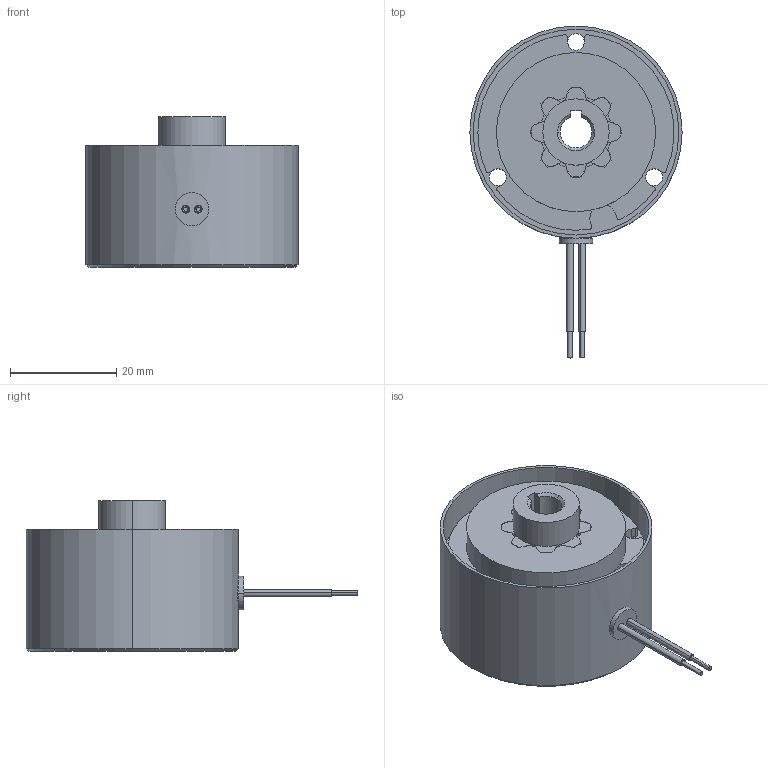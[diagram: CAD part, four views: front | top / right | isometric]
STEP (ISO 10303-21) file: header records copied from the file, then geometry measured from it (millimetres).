
FILE_DESCRIPTION (( 'STEP AP214' ), '1' );
FILE_NAME ('dr_bk_0B08.STEP', '2021-11-08T13:43:37', ( '' ), ( '' ), 'SwSTEP 2.0', 'SolidWorks 2019', '' );
FILE_SCHEMA (( 'AUTOMOTIVE_DESIGN' ));
Length unit declared in the file: millimetre
Products named in the file (6): 10068553_000; 10068557_000; 10068556_000; 10068555_000; dr_bk_0B08; 10068554_000_Einbaul„nge 8,5 mm
Assembly tree (5 placements, depth 2):
  dr_bk_0B08
    10068553_000
    10068554_000_Einbaul„nge 8,5 mm
    10068556_000
    10068555_000
    10068557_000
Bounding box: 40 x 62.56 x 28.45 mm (x, y, z)
Volume: 24864.4 mm3; surface area: 13041.7 mm2
Topology: 8 solids, 8 shells, 179 faces, 457 edges, 302 vertices
Faces by surface type: cylinder 128, plane 37, cone 8, bspline 6
Entity records: 7450 total; most frequent: CARTESIAN_POINT 2421, DIRECTION 1073, ORIENTED_EDGE 914, EDGE_CURVE 457, AXIS2_PLACEMENT_3D 452, VERTEX_POINT 302, CIRCLE 271, EDGE_LOOP 205
